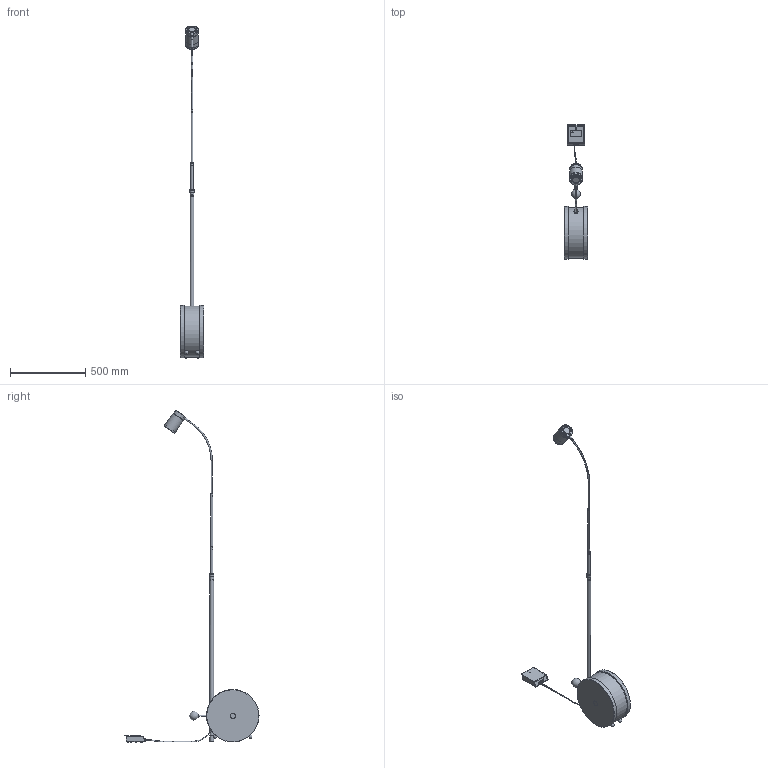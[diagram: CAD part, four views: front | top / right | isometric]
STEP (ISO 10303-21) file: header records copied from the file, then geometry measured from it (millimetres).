
FILE_DESCRIPTION(/* description */ (''),/* implementation_level */ '2;1');
FILE_NAME(/* name */ 'ASM chiocciola floor.step',/* time_stamp */ '2023-03-02T15:12:32+01:00',/* author */ (''),/* organization */ (''),/* preprocessor_version */ 'ST-DEVELOPER v19.2',/* originating_system */ 'Autodesk Translation Framework v11.17.0.187',/* authorisation */ '');
FILE_SCHEMA (('AUTOMOTIVE_DESIGN { 1 0 10303 214 3 1 1 }'));
Products named in the file (62): ASM chiocciola floor; Gruppo Aste; Gruppo Scorrevole; Ass_Contrappeso Asta v5; Tige Fe M13x1 L20; Giunto Scorrevole per Chiocciola Floor; Molla a compress; Sfera D8; Chiocciola_Tubo_02; Chiocciola_Tubo_02_1; Chiocciola_Tubo_04; Grano Punta Piana M4x4; Chiocciola Boccola Asta 25; Chiocciola_Tubo_01; Assieme Pedale Quadro; BLOCCACAVO STEAB 5100_7_08_26; Dado M10x1_STEAB 5339; BLOCCACAVO STEAB 5100_7_08_26_1; STEAB 5408_4_10; PUSH-BUTTON; PULSANTE; 91800A015_18-8 Stainless Steel Narrow Cheese Head Slotted Screws; Ghiera bottone pedale; Driver  TCI 127492BIS; CALOTTA BL715-488787425; BASE BL714-488787424; BJB Terminal Block 2 Poles 46.412.1200.50; BJB Terminal Block 3 Poles 46.413.1214.50; 002YR0HY04-1; 002YR0HY04-2; Distanziatore Tasto pedale; Vite_TC M4x25; Vite_TC M3x15; Lamierino porta Tasto; Copertura Pedaliera Quadro; Base Pedaliera Quadro; Vite_TS M4x8; Vite_TC M4x6; Piedini Autoadesivi; 97985A530_Zinc-Plated Steel External-Tooth Lock Washer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
Assembly tree (86 placements, depth 5):
  ASM chiocciola floor
    Gruppo Aste
      Gruppo Scorrevole
        Ass_Contrappeso Asta v5
          Tige Fe M13x1 L20
          Giunto Scorrevole per Chiocciola Floor
          Molla a compress  x5
          Sfera D8  x5
        Chiocciola_Tubo_02
        Chiocciola_Tubo_02_1
        Chiocciola_Tubo_04
      Grano Punta Piana M4x4
      Chiocciola Boccola Asta 25
      Chiocciola_Tubo_01
    Assieme Pedale Quadro
      BLOCCACAVO STEAB 5100_7_08_26
        STEAB 5408_4_10
      Dado M10x1_STEAB 5339  x2
      BLOCCACAVO STEAB 5100_7_08_26_1
        STEAB 5408_4_10
      PUSH-BUTTON
        PULSANTE  x2
        91800A015_18-8 Stainless Steel Narrow Cheese Head Slotted Screws  x2
      Ghiera bottone pedale
      Driver  TCI 127492BIS
        CALOTTA BL715-488787425
        BASE BL714-488787424
      BJB Terminal Block 2 Poles 46.412.1200.50
      BJB Terminal Block 3 Poles 46.413.1214.50
        002YR0HY04-1
        002YR0HY04-2
      Distanziatore Tasto pedale  x2
      Vite_TC M4x25  x2
      Vite_TC M3x15  x2
      Lamierino porta Tasto
      Copertura Pedaliera Quadro
      Base Pedaliera Quadro
      Vite_TS M4x8  x2
      Vite_TC M4x6  x2
      Piedini Autoadesivi  x4
      97985A530_Zinc-Plated Steel External-Tooth Lock Washer
      Vite_TC M4x4
    Chiocciola Ruota in Legno
    Chiocciola Flangia U
    Chioccila Flangia Interna
    Chiocciola Perno Sfera
    Chiocciola Sfera
    Chiocciola Dado Cilindrico Ruota  x2
    Chiocciola Sferetta Finecorsa Floor  x4
    Chiocciola Ruota in Marmo  x2
    Rondella Nylon De30 Di10 Sp0,5
    Chiocciola Piede Floor
    Rayconn - ALT85 - Braccio 30
      SPOT
      ARM
      COB LENS
      LED PCB v12
        LAMIERA LED SUPERIORE v12
        LED GROUP
          LED (1)
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Bounding box: 157 x 893.23 x 2212.49 mm (x, y, z)
Volume: 14599774 mm3; surface area: 1412829.4 mm2
Topology: 79 solids, 79 shells, 3465 faces, 8751 edges, 5598 vertices
Faces by surface type: plane 1720, cylinder 833, bspline 535, torus 156, cone 116, sphere 105
Full cylindrical faces by diameter (mm): 1.2 x5, 1.933 x2, 2.3 x10, 2.4 x5, 2.5 x4, 2.529 x3, 2.927 x2, 3 x4, 3.332 x7, 3.5 x4, 3.8 x2, 3.9 x5, 3.908 x8, 4.2 x3, 4.3 x1, 4.5 x9, 4.901 x4, 5 x8, 5.6 x3, 5.8 x2, 6 x7, 6.035 x2, 6.884 x2, 7 x2, 7.2 x2, 8 x8, 8.1 x5, 8.526 x1, 9 x1, 9.036 x8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
Entity records: 124786 total; most frequent: CARTESIAN_POINT 45354, ORIENTED_EDGE 16284, DIRECTION 15519, EDGE_CURVE 8142, AXIS2_PLACEMENT_3D 5426, VERTEX_POINT 5215, LINE 4667, VECTOR 4667
